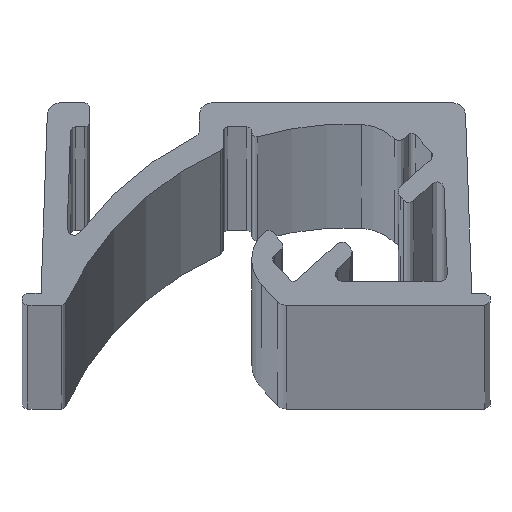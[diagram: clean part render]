
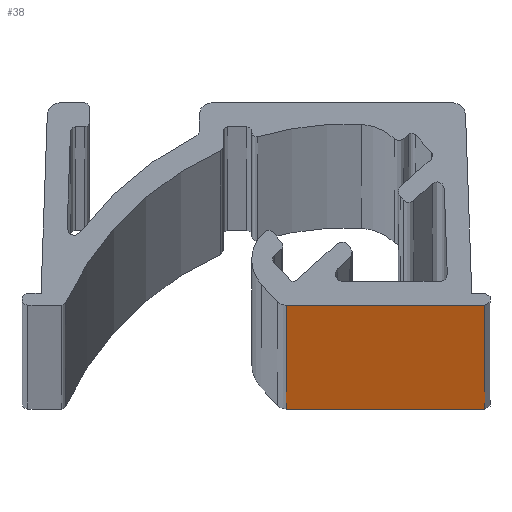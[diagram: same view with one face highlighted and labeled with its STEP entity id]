
A CAD part, top view. The second image highlights one B-rep face of the part: STEP entity #38.
In plain terms, the highlighted planar face has unit normal (0, -1, 0).
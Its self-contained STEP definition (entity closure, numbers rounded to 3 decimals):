
#7 = DIRECTION ( 'NONE',  ( 1., 0., 0. ) ) ;
#38 = ADVANCED_FACE ( 'NONE', ( #2463 ), #776, .F. ) ;
#39 = VECTOR ( 'NONE', #1716, 1000. ) ;
#221 = VERTEX_POINT ( 'NONE', #2473 ) ;
#232 = DIRECTION ( 'NONE',  ( 0., 0., -1. ) ) ;
#317 = CARTESIAN_POINT ( 'NONE',  ( 1.248, -8.5, 2500. ) ) ;
#566 = CARTESIAN_POINT ( 'NONE',  ( 9.6, -8.5, 0. ) ) ;
#610 = VERTEX_POINT ( 'NONE', #1173 ) ;
#745 = VECTOR ( 'NONE', #7, 1000. ) ;
#776 = PLANE ( 'NONE',  #2530 ) ;
#815 = CARTESIAN_POINT ( 'NONE',  ( 1.248, -8.5, 2500. ) ) ;
#818 = EDGE_CURVE ( 'NONE', #221, #2217, #1755, .T. ) ;
#909 = CARTESIAN_POINT ( 'NONE',  ( 1.248, -8.5, 2500. ) ) ;
#913 = DIRECTION ( 'NONE',  ( 1., 0., 0. ) ) ;
#1008 = VECTOR ( 'NONE', #232, 1000. ) ;
#1168 = DIRECTION ( 'NONE',  ( 0., 0., 1. ) ) ;
#1173 = CARTESIAN_POINT ( 'NONE',  ( 9.6, -8.5, 2500. ) ) ;
#1217 = EDGE_LOOP ( 'NONE', ( #1946, #2415, #2400, #1312 ) ) ;
#1256 = LINE ( 'NONE', #2077, #1008 ) ;
#1312 = ORIENTED_EDGE ( 'NONE', *, *, #1816, .T. ) ;
#1328 = CARTESIAN_POINT ( 'NONE',  ( 1.248, -8.5, 0. ) ) ;
#1417 = CARTESIAN_POINT ( 'NONE',  ( 1.248, -8.5, 2500. ) ) ;
#1574 = EDGE_CURVE ( 'NONE', #2213, #610, #1835, .T. ) ;
#1622 = VECTOR ( 'NONE', #913, 1000. ) ;
#1673 = EDGE_CURVE ( 'NONE', #610, #2217, #1256, .T. ) ;
#1716 = DIRECTION ( 'NONE',  ( 0., 0., -1. ) ) ;
#1755 = LINE ( 'NONE', #1328, #1622 ) ;
#1808 = DIRECTION ( 'NONE',  ( 0., 1., 0. ) ) ;
#1816 = EDGE_CURVE ( 'NONE', #2213, #221, #2144, .T. ) ;
#1835 = LINE ( 'NONE', #815, #745 ) ;
#1946 = ORIENTED_EDGE ( 'NONE', *, *, #818, .T. ) ;
#2077 = CARTESIAN_POINT ( 'NONE',  ( 9.6, -8.5, 2500. ) ) ;
#2144 = LINE ( 'NONE', #909, #39 ) ;
#2213 = VERTEX_POINT ( 'NONE', #317 ) ;
#2217 = VERTEX_POINT ( 'NONE', #566 ) ;
#2400 = ORIENTED_EDGE ( 'NONE', *, *, #1574, .F. ) ;
#2415 = ORIENTED_EDGE ( 'NONE', *, *, #1673, .F. ) ;
#2463 = FACE_OUTER_BOUND ( 'NONE', #1217, .T. ) ;
#2473 = CARTESIAN_POINT ( 'NONE',  ( 1.248, -8.5, 0. ) ) ;
#2530 = AXIS2_PLACEMENT_3D ( 'NONE', #1417, #1808, #1168 ) ;
